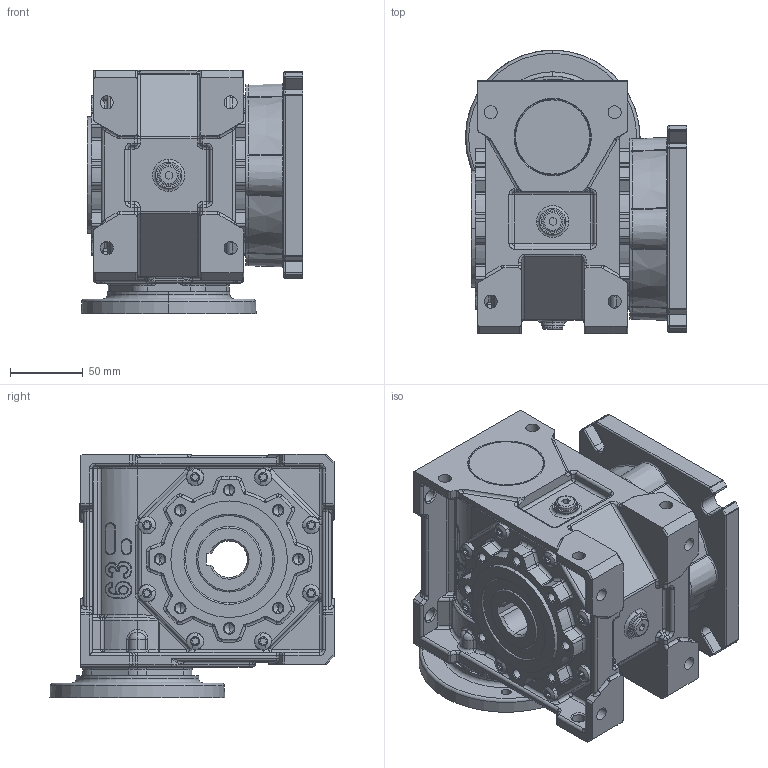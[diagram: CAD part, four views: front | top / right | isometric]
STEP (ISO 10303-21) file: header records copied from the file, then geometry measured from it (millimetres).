
FILE_DESCRIPTION (( 'STEP AP214' ), '1' );
FILE_NAME ('MKT63-FFL-80-100.STEP', '2006-05-09T06:23:51', ( '' ), ( '' ), 'SwSTEP 2.0', 'SolidWorks 2004146', '' );
FILE_SCHEMA (( 'AUTOMOTIVE_DESIGN' ));
Length unit declared in the file: millimetre
Products named in the file (6): MKT63-FFL-80-100; D6912_Šroub DIN 6912 - M6x25; Pøíruba FF MKT 63_odlitek; Pøíruba MRT80 kulatá _80-100-120; Skrin MKT63_MKT63 AP80; D6912_Šroub DIN 6912 - M8x25
Assembly tree (13 placements, depth 2):
  MKT63-FFL-80-100
    D6912_Šroub DIN 6912 - M8x25  x4
    Pøíruba MRT80 kulatá _80-100-120
    Skrin MKT63_MKT63 AP80
    D6912_Šroub DIN 6912 - M6x25  x6
    Pøíruba FF MKT 63_odlitek
Bounding box: 152 x 195 x 167 mm (x, y, z)
Volume: 2270109 mm3; surface area: 286542.5 mm2
Topology: 13 solids, 13 shells, 2575 faces, 6072 edges, 3508 vertices
Faces by surface type: cylinder 980, plane 485, torus 449, cone 282, bspline 223, sphere 156
Entity records: 203603 total; most frequent: CARTESIAN_POINT 146815, DIRECTION 11856, ORIENTED_EDGE 10810, EDGE_CURVE 5405, AXIS2_PLACEMENT_3D 4996, VERTEX_POINT 3236, CIRCLE 2924, EDGE_LOOP 2441
